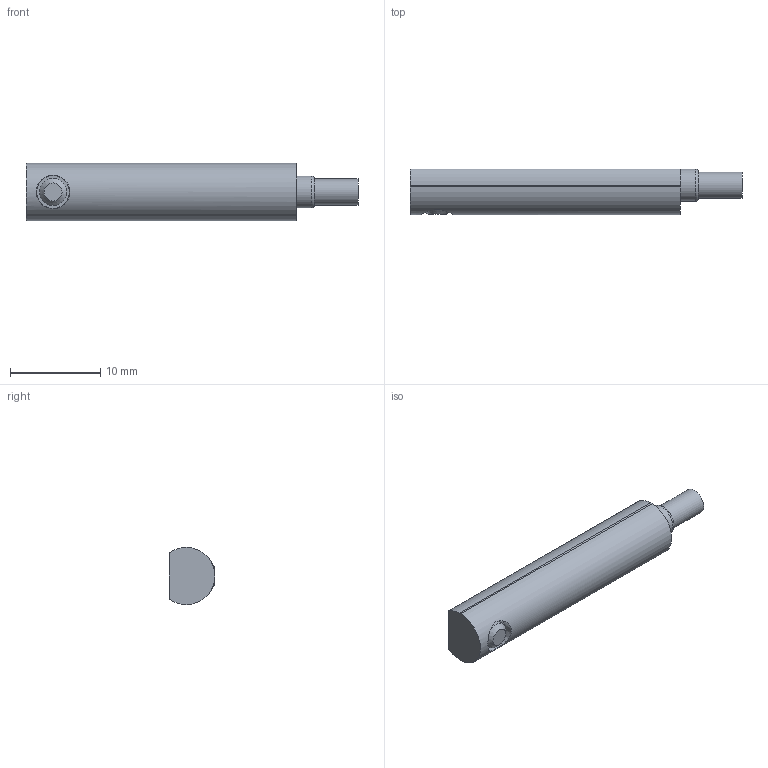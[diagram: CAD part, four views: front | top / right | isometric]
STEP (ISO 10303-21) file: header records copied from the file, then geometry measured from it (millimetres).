
FILE_DESCRIPTION(/* description */ ('STEP AP203'),/* implementation_level */ '2;1');
FILE_NAME(/* name */ 'MK5534',/* time_stamp */ '2024-03-15T09:30:34+01:00',/* author */ ('License CC BY-ND 4.0'),/* organization */ ('CADENAS'),/* preprocessor_version */ 'ST-DEVELOPER v19.3',/* originating_system */ 'PARTsolutions',/* authorisation */ ' ');
FILE_SCHEMA (('CONFIG_CONTROL_DESIGN'));
Length unit declared in the file: millimetre
Products named in the file (1): MK5534
Bounding box: 36.84 x 5.05 x 6.35 mm (x, y, z)
Volume: 848.5 mm3; surface area: 717 mm2
Topology: 1 solids, 1 shells, 32 faces, 69 edges, 45 vertices
Faces by surface type: plane 18, cylinder 8, cone 5, torus 1
Full cylindrical faces by diameter (mm): 2.9 x1, 3 x1, 3.55 x1
Entity records: 856 total; most frequent: CARTESIAN_POINT 152, DIRECTION 147, ORIENTED_EDGE 116, EDGE_CURVE 58, AXIS2_PLACEMENT_3D 57, EDGE_LOOP 47, FACE_BOUND 47, VERTEX_POINT 43
